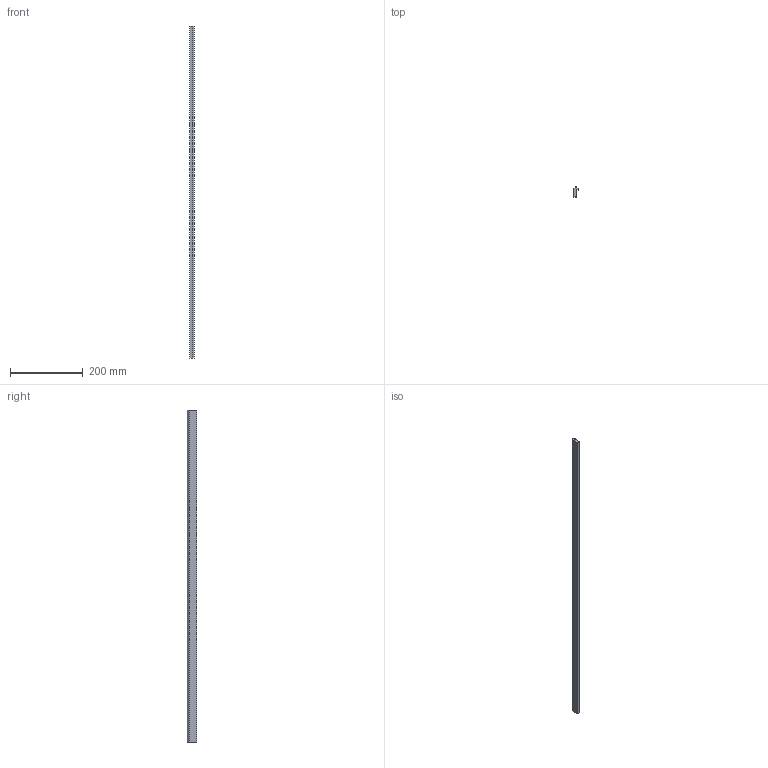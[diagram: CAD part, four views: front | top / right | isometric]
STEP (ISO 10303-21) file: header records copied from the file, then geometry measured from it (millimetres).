
FILE_DESCRIPTION( ( 'STEP AP214' ), '1' );
FILE_NAME( 'p:/temp/worker_32/temp/app_46_02019012316370772156173192d056f_000000_00_00_000000/format_0/T4-3.stp', '2019-01-23T15:37:08', ( '' ), ( '' ), ' ', 'PARTsolutions', ' ' );
FILE_SCHEMA( ( 'AUTOMOTIVE_DESIGN { 1 0 10303 214 1 1 1 1 }' ) );
Length unit declared in the file: inch
Products named in the file (1): _T4-3
Bounding box: 11.1 x 26.33 x 914.4 mm (x, y, z)
Volume: 188722.8 mm3; surface area: 64428 mm2
Topology: 1 solids, 1 shells, 11 faces, 27 edges, 18 vertices
Faces by surface type: plane 9, cylinder 2
Entity records: 429 total; most frequent: CARTESIAN_POINT 57, DIRECTION 55, ORIENTED_EDGE 54, EDGE_CURVE 27, LINE 23, VECTOR 23, VERTEX_POINT 18, AXIS2_PLACEMENT_3D 16
